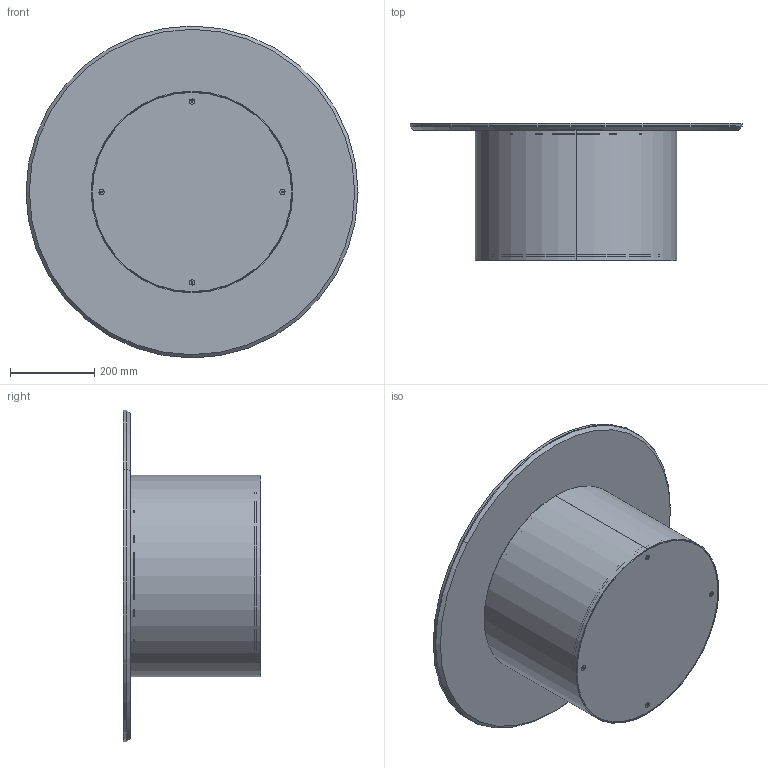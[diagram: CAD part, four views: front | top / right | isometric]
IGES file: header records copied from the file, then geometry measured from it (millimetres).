
Start section: SolidWorks IGES file using analytic representation for surfaces
Global section: file name: Y:\eforma\TECNICO\SOLIDWORKS\E-FORMA\2-TAVOLINI\CILINDRO LOW\02 parts\CL12C.IGS; native system: SolidWorks 2022; preprocessor: SolidWorks 2022; author: eforma.tech; date: 240806.121527; units: millimetre
Bounding box: 790 x 326 x 790 mm (x, y, z)
Volume: 11276549.5 mm3; surface area: 3678722.9 mm2
Topology: 13 solids, 13 shells, 237 faces, 509 edges, 294 vertices
Faces by surface type: revolution 123, plane 112, bspline 2
